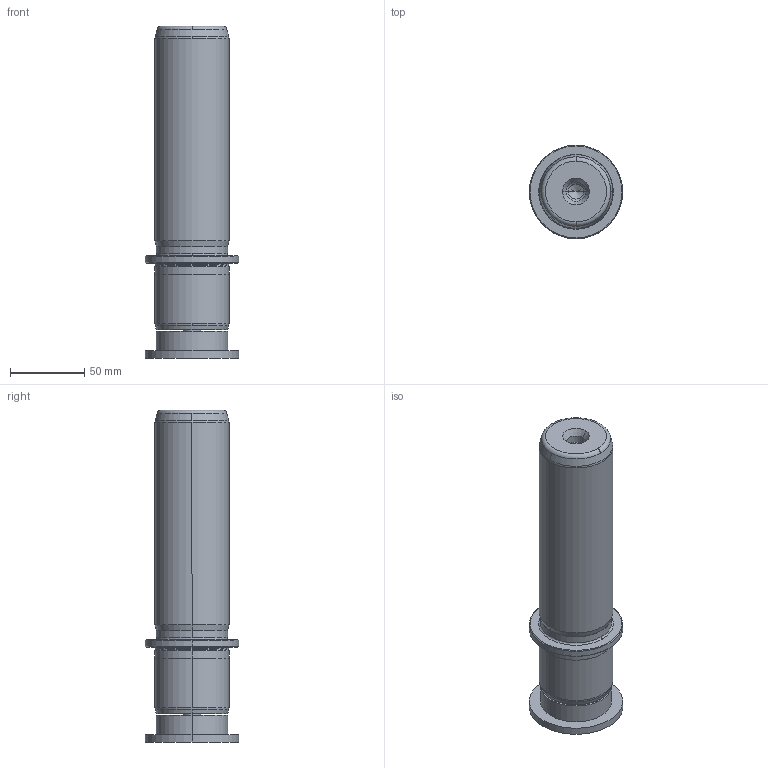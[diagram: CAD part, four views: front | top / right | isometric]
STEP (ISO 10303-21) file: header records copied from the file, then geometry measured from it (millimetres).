
FILE_DESCRIPTION((''),'2;1');
FILE_NAME('P22_050_160.stp','2009-11-02T10:47:19',(''),(''),'Mechanical Desktop 2009','Mechanical Desktop 2009',', , ');
FILE_SCHEMA(('CONFIG_CONTROL_DESIGN'));
Length unit declared in the file: millimetre
Products named in the file (2): Product; blmdl1
Assembly tree (1 placements, depth 2):
  Product
    blmdl1
Bounding box: 63 x 63 x 224 mm (x, y, z)
Volume: 437922.8 mm3; surface area: 52849.3 mm2
Topology: 3 solids, 3 shells, 99 faces, 237 edges, 149 vertices
Faces by surface type: cylinder 32, cone 28, plane 19, torus 10, bspline 10
Entity records: 3419 total; most frequent: CARTESIAN_POINT 923, DIRECTION 570, ORIENTED_EDGE 466, AXIS2_PLACEMENT_3D 246, EDGE_CURVE 233, CIRCLE 155, VERTEX_POINT 149, EDGE_LOOP 110
